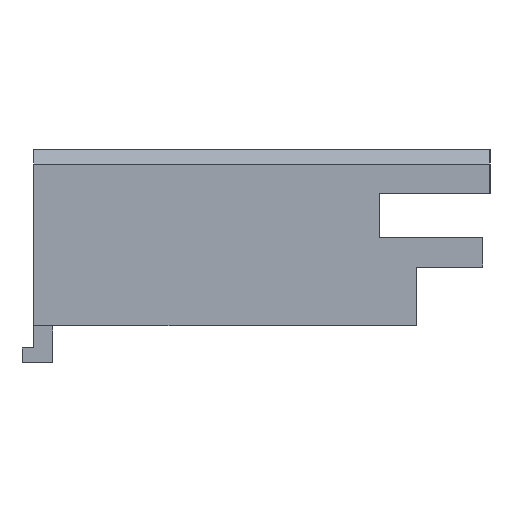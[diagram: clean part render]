
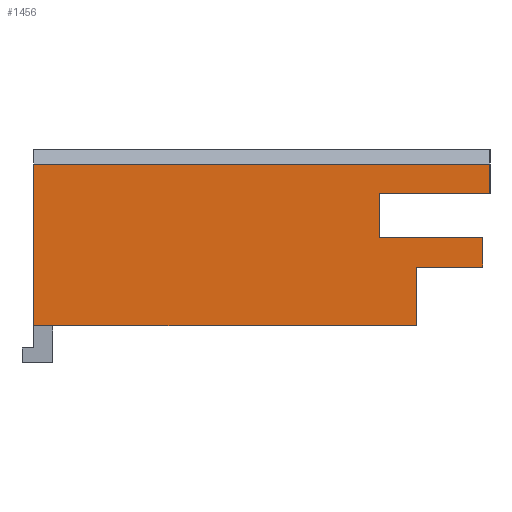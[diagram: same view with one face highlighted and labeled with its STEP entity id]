
A CAD part, left-side view. The second image highlights one B-rep face of the part: STEP entity #1456.
In plain terms, the highlighted planar face has unit normal (-1, 0, 0).
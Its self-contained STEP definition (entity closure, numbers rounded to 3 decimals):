
#1456=ADVANCED_FACE('',(#1797),#1628,.T.);
#1628=PLANE('',#5037);
#1797=FACE_OUTER_BOUND('',#1971,.T.);
#1971=EDGE_LOOP('',(#2933,#2934,#2935,#2936,#2937,#2938,#2939,#2940,#2941,
#2942));
#2933=ORIENTED_EDGE('',*,*,#3784,.F.);
#2934=ORIENTED_EDGE('',*,*,#3785,.F.);
#2935=ORIENTED_EDGE('',*,*,#3790,.F.);
#2936=ORIENTED_EDGE('',*,*,#3799,.F.);
#2937=ORIENTED_EDGE('',*,*,#3848,.T.);
#2938=ORIENTED_EDGE('',*,*,#3849,.T.);
#2939=ORIENTED_EDGE('',*,*,#3850,.F.);
#2940=ORIENTED_EDGE('',*,*,#3811,.T.);
#2941=ORIENTED_EDGE('',*,*,#3796,.F.);
#2942=ORIENTED_EDGE('',*,*,#3842,.F.);
#3301=VERTEX_POINT('',#6787);
#3304=VERTEX_POINT('',#6793);
#3305=VERTEX_POINT('',#6797);
#3308=VERTEX_POINT('',#6805);
#3309=VERTEX_POINT('',#6809);
#3314=VERTEX_POINT('',#6818);
#3316=VERTEX_POINT('',#6824);
#3323=VERTEX_POINT('',#6849);
#3341=VERTEX_POINT('',#6920);
#3342=VERTEX_POINT('',#6922);
#3784=EDGE_CURVE('',#3304,#3301,#4284,.T.);
#3785=EDGE_CURVE('',#3305,#3304,#4285,.T.);
#3790=EDGE_CURVE('',#3308,#3305,#4290,.T.);
#3796=EDGE_CURVE('',#3314,#3309,#4296,.T.);
#3799=EDGE_CURVE('',#3316,#3308,#4299,.T.);
#3811=EDGE_CURVE('',#3323,#3309,#4311,.T.);
#3842=EDGE_CURVE('',#3301,#3314,#4342,.T.);
#3848=EDGE_CURVE('',#3316,#3341,#4348,.T.);
#3849=EDGE_CURVE('',#3341,#3342,#4349,.T.);
#3850=EDGE_CURVE('',#3323,#3342,#4350,.T.);
#4284=LINE('',#6794,#4780);
#4285=LINE('',#6796,#4781);
#4290=LINE('',#6806,#4786);
#4296=LINE('',#6819,#4792);
#4299=LINE('',#6825,#4795);
#4311=LINE('',#6848,#4807);
#4342=LINE('',#6908,#4838);
#4348=LINE('',#6919,#4844);
#4349=LINE('',#6921,#4845);
#4350=LINE('',#6923,#4846);
#4780=VECTOR('',#5771,1.);
#4781=VECTOR('',#5774,1.);
#4786=VECTOR('',#5781,1.);
#4792=VECTOR('',#5789,1.);
#4795=VECTOR('',#5794,1.);
#4807=VECTOR('',#5816,1.);
#4838=VECTOR('',#5873,1.);
#4844=VECTOR('',#5885,1.);
#4845=VECTOR('',#5886,1.);
#4846=VECTOR('',#5887,1.);
#5037=AXIS2_PLACEMENT_3D('',#6924,#5888,#5889);
#5771=DIRECTION('',(0.,0.,-1.));
#5774=DIRECTION('',(0.,-1.,0.));
#5781=DIRECTION('',(0.,0.,-1.));
#5789=DIRECTION('',(0.,0.,-1.));
#5794=DIRECTION('',(0.,1.,0.));
#5816=DIRECTION('',(0.,-1.,0.));
#5873=DIRECTION('',(0.,1.,0.));
#5885=DIRECTION('',(0.,0.,1.));
#5886=DIRECTION('',(0.,1.,0.));
#5887=DIRECTION('',(0.,0.,1.));
#5888=DIRECTION('',(-1.,0.,0.));
#5889=DIRECTION('',(0.,0.,1.));
#6787=CARTESIAN_POINT('',(-16.963,-12.7,-0.27));
#6793=CARTESIAN_POINT('',(-16.963,-12.7,1.73));
#6794=CARTESIAN_POINT('',(-16.963,-12.7,-4.27));
#6796=CARTESIAN_POINT('',(-16.963,2.55,1.73));
#6797=CARTESIAN_POINT('',(-16.963,-5.7,1.73));
#6805=CARTESIAN_POINT('',(-16.963,-5.7,4.73));
#6806=CARTESIAN_POINT('',(-16.963,-5.7,-4.27));
#6809=CARTESIAN_POINT('',(-16.963,-8.2,-4.27));
#6818=CARTESIAN_POINT('',(-16.963,-8.2,-0.27));
#6819=CARTESIAN_POINT('',(-16.963,-8.2,-4.27));
#6824=CARTESIAN_POINT('',(-16.963,-13.2,4.73));
#6825=CARTESIAN_POINT('',(-16.963,2.55,4.73));
#6848=CARTESIAN_POINT('',(-16.963,2.55,-4.27));
#6849=CARTESIAN_POINT('',(-16.963,17.8,-4.27));
#6908=CARTESIAN_POINT('',(-16.963,2.55,-0.27));
#6919=CARTESIAN_POINT('',(-16.963,-13.2,-4.27));
#6920=CARTESIAN_POINT('',(-16.963,-13.2,6.73));
#6921=CARTESIAN_POINT('',(-16.963,2.55,6.73));
#6922=CARTESIAN_POINT('',(-16.963,17.8,6.73));
#6923=CARTESIAN_POINT('',(-16.963,17.8,-4.27));
#6924=CARTESIAN_POINT('',(-16.963,2.55,-4.27));
